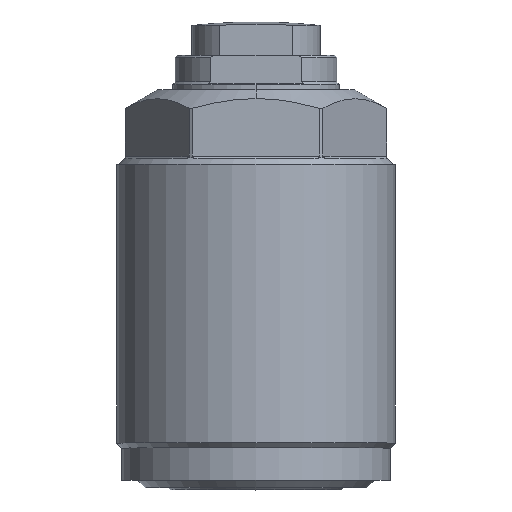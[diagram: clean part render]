
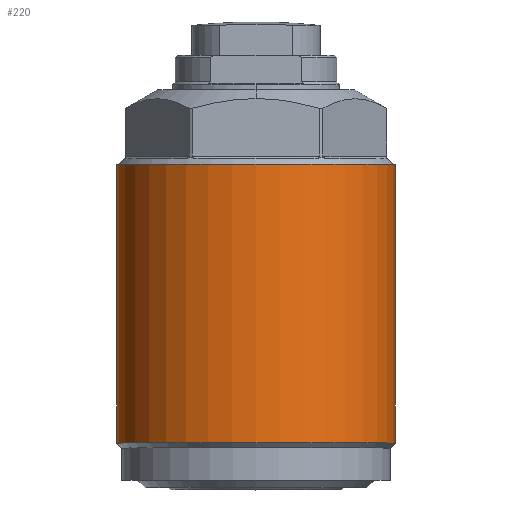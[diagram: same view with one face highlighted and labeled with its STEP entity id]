
A CAD part, top view. The second image highlights one B-rep face of the part: STEP entity #220.
In plain terms, the highlighted cylindrical face has radius 25 mm (diameter 50 mm), a partial arc.
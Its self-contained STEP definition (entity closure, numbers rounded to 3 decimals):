
#220=ADVANCED_FACE('',(#346),#307,.T.);
#307=CYLINDRICAL_SURFACE('',#1580,25.);
#346=FACE_OUTER_BOUND('',#428,.T.);
#428=EDGE_LOOP('',(#702,#703,#704,#705));
#534=LINE('',#2302,#609);
#535=LINE('',#2306,#610);
#609=VECTOR('',#1807,1.);
#610=VECTOR('',#1810,1.);
#702=ORIENTED_EDGE('',*,*,#1266,.T.);
#703=ORIENTED_EDGE('',*,*,#1271,.T.);
#704=ORIENTED_EDGE('',*,*,#1272,.F.);
#705=ORIENTED_EDGE('',*,*,#1273,.F.);
#1128=VERTEX_POINT('',#2291);
#1129=VERTEX_POINT('',#2293);
#1132=VERTEX_POINT('',#2303);
#1133=VERTEX_POINT('',#2305);
#1266=EDGE_CURVE('',#1129,#1128,#1469,.T.);
#1271=EDGE_CURVE('',#1128,#1132,#534,.T.);
#1272=EDGE_CURVE('',#1133,#1132,#1471,.T.);
#1273=EDGE_CURVE('',#1129,#1133,#535,.T.);
#1469=CIRCLE('',#1575,25.);
#1471=CIRCLE('',#1579,25.);
#1575=AXIS2_PLACEMENT_3D('',#2292,#1796,#1797);
#1579=AXIS2_PLACEMENT_3D('',#2304,#1808,#1809);
#1580=AXIS2_PLACEMENT_3D('',#2307,#1811,#1812);
#1796=DIRECTION('',(-1.,0.,0.));
#1797=DIRECTION('',(0.,0.,-1.));
#1807=DIRECTION('',(-1.,0.,0.));
#1808=DIRECTION('',(-1.,0.,0.));
#1809=DIRECTION('',(0.,0.,1.));
#1810=DIRECTION('',(-1.,0.,0.));
#1811=DIRECTION('',(-1.,0.,0.));
#1812=DIRECTION('',(0.,0.,-1.));
#2291=CARTESIAN_POINT('',(63.4,0.,-25.));
#2292=CARTESIAN_POINT('',(63.4,0.,0.));
#2293=CARTESIAN_POINT('',(63.4,0.,25.));
#2302=CARTESIAN_POINT('',(70.1,0.,-25.));
#2303=CARTESIAN_POINT('',(13.4,0.,-25.));
#2304=CARTESIAN_POINT('',(13.4,0.,0.));
#2305=CARTESIAN_POINT('',(13.4,0.,25.));
#2306=CARTESIAN_POINT('',(70.1,0.,25.));
#2307=CARTESIAN_POINT('',(70.1,0.,0.));
